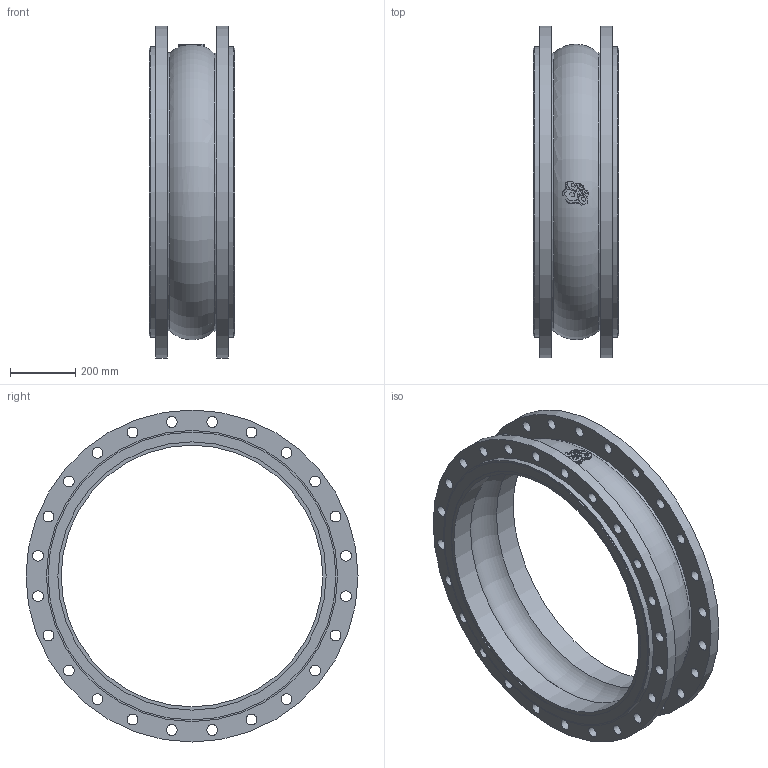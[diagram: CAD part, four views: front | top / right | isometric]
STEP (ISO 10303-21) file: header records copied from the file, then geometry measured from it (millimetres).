
FILE_DESCRIPTION(('STEP AP203'), '1');
FILE_NAME('3D_500-800-EPDM-FF', '', ('UNSPECIFIED'), ('UNSPECIFIED'), 'C3D Converter', 'C3D Toolkit', '');
FILE_SCHEMA(('CONFIG_CONTROL_DESIGN'));
Length unit declared in the file: millimetre
Bounding box: 260 x 1015 x 1015 mm (x, y, z)
Volume: 34788069.1 mm3; surface area: 2689754.3 mm2
Topology: 1 solids, 1 shells, 899 faces, 2643 edges, 1768 vertices
Faces by surface type: plane 831, cylinder 60, torus 8
Full cylindrical faces by diameter (mm): 33 x48, 800 x2, 820 x2, 850 x2, 880 x2, 890 x2, 1015 x2
Entity records: 38679 total; most frequent: CARTESIAN_POINT 9015, ORIENTED_EDGE 5162, DIRECTION 3712, EDGE_CURVE 2581, VERTEX_POINT 1768, LINE 1626, VECTOR 1626, EDGE_LOOP 1081
